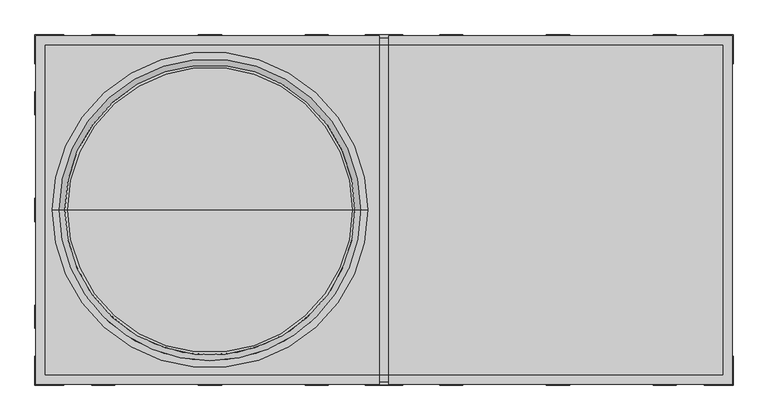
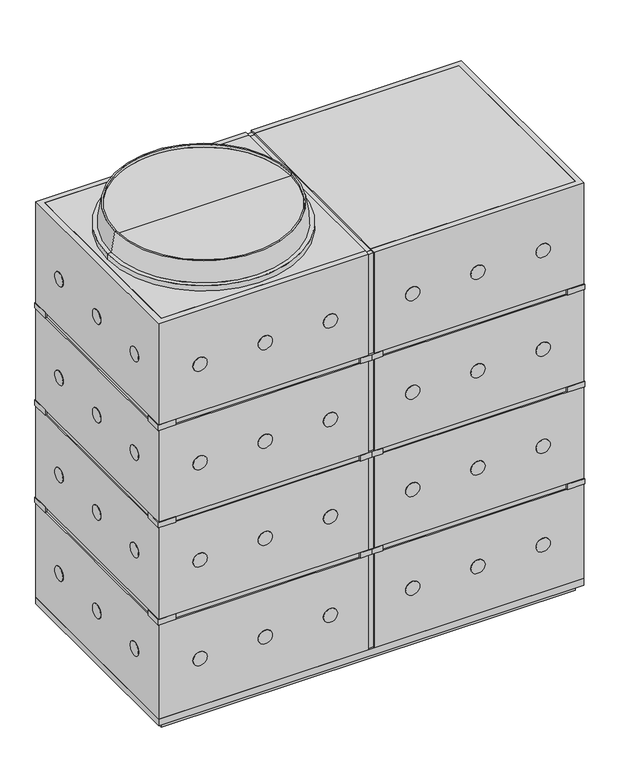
"""IFC4 building model written with IfcOpenShell, lengths in millimetres: cable carrier fitting geometry, КНС_КолодецПластиковыйСЛюком_1500-750-1500_301500_DKC : Колодец кабельный 1500×750×1500_301500."""

from ifc_helpers import new_model, si_unit, point, frame, frame_2d, origin, place, context, project, spatial, polyline, circle_curve, trimmed, segment, composite_curve, outline, extrude, faceted_brep, source, transform, mapped, element, save
from ifc_brep_helpers import plane_surface, cylinder_surface, revolved_surface, advanced_brep


def cable_carrier_fitting_decc5438(model_context):
    return source(origin(), model_context, "Body", "SolidModel", [
        extrude(outline(polyline([(1500.0, -730.0), (1500.0, 730.0), (1525.0, 730.0), (1525.0, 10.0), (1520.0, 10.0), (1520.0, -10.0), (1525.0, -10.0), (1525.0, -730.0), (1500.0, -730.0)])), frame((0.0, -355.0, 0.0), z_axis=(0.0, 1.0, 0.0), x_axis=(0.0, 0.0, 1.0)), (0.0, 0.0, 1.0), 710.0),
        advanced_brep(
        [(-375.0, 0.0, 1525.0), (-715.0, 0.0, 1525.0), (-35.0, 0.0, 1525.0), (-67.5121518, 0.0, 1609.0), (-682.4878482, 0.0, 1609.0), (-375.0, 0.0, 1609.0), (-67.5121518, 0.0, 1619.0), (-682.4878482, 0.0, 1619.0), (-62.5121518, 0.0, 1619.0), (-687.4878482, 0.0, 1619.0), (-50.0, 0.0, 1545.0), (-700.0, 0.0, 1545.0), (-35.0, 0.0, 1545.0), (-715.0, 0.0, 1545.0)],
        [
            (0, 1),
            (1, 2, circle_curve(frame((-375.0, 0.0, 1525.0), z_axis=(0.0, 0.0, -1.0), x_axis=(-1.0, 0.0, 0.0)), 340.0)),
            (2, 0),
            (2, 1, circle_curve(frame((-375.0, 0.0, 1525.0), z_axis=(0.0, 0.0, -1.0), x_axis=(-1.0, 0.0, 0.0)), 340.0)),
            (3, 4, circle_curve(frame((-375.0, 0.0, 1609.0), z_axis=(0.0, 0.0, 1.0), x_axis=(-1.0, 0.0, 0.0)), 307.4878482)),
            (4, 5),
            (5, 3),
            (4, 3, circle_curve(frame((-375.0, 0.0, 1609.0), z_axis=(0.0, 0.0, 1.0), x_axis=(-1.0, 0.0, 0.0)), 307.4878482)),
            (6, 7, circle_curve(frame((-375.0, 0.0, 1619.0), z_axis=(0.0, 0.0, 1.0), x_axis=(-1.0, 0.0, 0.0)), 307.4878482)),
            (7, 4),
            (3, 6),
            (7, 6, circle_curve(frame((-375.0, 0.0, 1619.0), z_axis=(0.0, 0.0, 1.0), x_axis=(-1.0, 0.0, 0.0)), 307.4878482)),
            (8, 9, circle_curve(frame((-375.0, 0.0, 1619.0), z_axis=(0.0, 0.0, 1.0), x_axis=(-1.0, 0.0, 0.0)), 312.4878482)),
            (9, 7),
            (6, 8),
            (9, 8, circle_curve(frame((-375.0, 0.0, 1619.0), z_axis=(0.0, 0.0, 1.0), x_axis=(-1.0, 0.0, 0.0)), 312.4878482)),
            (10, 11, circle_curve(frame((-375.0, 0.0, 1545.0), z_axis=(0.0, 0.0, 1.0), x_axis=(-1.0, 0.0, 0.0)), 325.0)),
            (11, 9),
            (8, 10),
            (11, 10, circle_curve(frame((-375.0, 0.0, 1545.0), z_axis=(0.0, 0.0, 1.0), x_axis=(-1.0, 0.0, 0.0)), 325.0)),
            (12, 13, circle_curve(frame((-375.0, 0.0, 1545.0), z_axis=(0.0, 0.0, 1.0), x_axis=(-1.0, 0.0, 0.0)), 340.0)),
            (13, 11),
            (10, 12),
            (13, 12, circle_curve(frame((-375.0, 0.0, 1545.0), z_axis=(0.0, 0.0, 1.0), x_axis=(-1.0, 0.0, 0.0)), 340.0)),
            (1, 13),
            (12, 2),
        ],
        [
            plane_surface(frame((-375.0, 0.0, 1525.0), z_axis=(0.0, 0.0, -1.0), x_axis=(-1.0, 0.0, 0.0))),
            plane_surface(frame((-375.0, 0.0, 1609.0), z_axis=(0.0, 0.0, 1.0), x_axis=(-1.0, 0.0, 0.0))),
            revolved_surface(polyline([(-682.4878481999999, 0.0, 1609.0), (-682.4878481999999, 0.0, 1619.0)]), (-375.0, 0.0, 2589.3150031), (0.0, 0.0, -1.0)),
            plane_surface(frame((-375.0, 0.0, 1619.0), z_axis=(0.0, 0.0, 1.0), x_axis=(-1.0, 0.0, 0.0))),
            revolved_surface(polyline([(-687.4878482, 0.0, 1619.0), (-700.0, 0.0, 1545.0)]), (-375.0, 0.0, 2589.3150031), (0.0, 0.0, -1.0)),
            plane_surface(frame((-375.0, 0.0, 1545.0), z_axis=(0.0, 0.0, 1.0), x_axis=(-1.0, 0.0, 0.0))),
            cylinder_surface(frame((-375.0, 0.0, 2589.3150031), z_axis=(0.0, 0.0, -1.0), x_axis=(-1.0, 0.0, 0.0)), 340.0),
        ],
        [
            (0, [[1, 2, 3]]),
            (0, [[-3, 4, -1]]),
            (1, [[5, 6, 7]]),
            (1, [[8, -7, -6]]),
            (2, [[9, 10, -5, 11]]),
            (2, [[12, -11, -8, -10]]),
            (3, [[13, 14, -9, 15]]),
            (3, [[16, -15, -12, -14]]),
            (4, [[17, 18, -13, 19]]),
            (4, [[20, -19, -16, -18]]),
            (5, [[21, 22, -17, 23]]),
            (5, [[24, -23, -20, -22]]),
            (6, [[-2, 25, -21, 26]]),
            (6, [[-4, -26, -24, -25]]),
        ],
    ),
        faceted_brep([(-750.0, 375.0, 1525.0), (-750.0, -375.0, 1525.0), (-10.0, -375.0, 1525.0), (-10.0, -355.0, 1525.0), (-730.0, -355.0, 1525.0), (-730.0, 355.0, 1525.0), (-10.0, 355.0, 1525.0), (-10.0, 375.0, 1525.0), (750.0, -375.0, 1525.0), (750.0, 375.0, 1525.0), (10.0, 375.0, 1525.0), (10.0, 355.0, 1525.0), (730.0, 355.0, 1525.0), (730.0, -355.0, 1525.0), (10.0, -355.0, 1525.0), (10.0, -375.0, 1525.0), (750.0, 375.0, 50.0), (750.0, -375.0, 50.0), (10.0, -375.0, 50.0), (10.0, -370.0, 50.0), (-10.0, -370.0, 50.0), (-10.0, -375.0, 50.0), (-750.0, -375.0, 50.0), (-750.0, 375.0, 50.0), (-10.0, 375.0, 50.0), (-10.0, 370.0, 50.0), (10.0, 370.0, 50.0), (10.0, 375.0, 50.0), (730.0, 355.0, 50.0), (-730.0, 355.0, 50.0), (-730.0, -355.0, 50.0), (730.0, -355.0, 50.0), (-10.0, 375.0, 1147.5), (-750.0, 375.0, 1147.5), (750.0, 375.0, 1147.5), (10.0, 375.0, 1147.5), (750.0, 375.0, 402.5), (10.0, 375.0, 402.5), (-750.0, 375.0, 402.5), (-10.0, 375.0, 402.5), (750.0, 375.0, 422.5), (10.0, 375.0, 422.5), (10.0, 375.0, 765.0), (750.0, 375.0, 765.0), (-10.0, 375.0, 422.5), (-750.0, 375.0, 422.5), (-750.0, 375.0, 765.0), (-10.0, 375.0, 765.0), (750.0, 375.0, 785.0), (10.0, 375.0, 785.0), (10.0, 375.0, 1127.5), (750.0, 375.0, 1127.5), (-10.0, 375.0, 785.0), (-750.0, 375.0, 785.0), (-750.0, 375.0, 1127.5), (-10.0, 375.0, 1127.5), (-750.0, -375.0, 1147.5), (-750.0, -375.0, 402.5), (-750.0, -375.0, 422.5), (-750.0, -375.0, 765.0), (-750.0, -375.0, 785.0), (-750.0, -375.0, 1127.5), (-10.0, -375.0, 1147.5), (10.0, -375.0, 1147.5), (750.0, -375.0, 1147.5), (-10.0, -375.0, 402.5), (750.0, -375.0, 402.5), (10.0, -375.0, 402.5), (10.0, -375.0, 422.5), (750.0, -375.0, 422.5), (750.0, -375.0, 765.0), (10.0, -375.0, 765.0), (-10.0, -375.0, 422.5), (-10.0, -375.0, 765.0), (-10.0, -375.0, 785.0), (-10.0, -375.0, 1127.5), (10.0, -375.0, 785.0), (750.0, -375.0, 785.0), (750.0, -375.0, 1127.5), (10.0, -375.0, 1127.5), (-745.0, 370.0, 402.5), (-745.0, -370.0, 402.5), (-745.0, -370.0, 422.5), (-745.0, 370.0, 422.5), (-10.0, -370.0, 402.5), (10.0, -370.0, 402.5), (745.0, -370.0, 402.5), (745.0, -370.0, 422.5), (10.0, -370.0, 422.5), (10.0, -370.0, 765.0), (745.0, -370.0, 765.0), (745.0, -370.0, 785.0), (10.0, -370.0, 785.0), (10.0, -370.0, 1127.5), (745.0, -370.0, 1127.5), (745.0, -370.0, 1147.5), (10.0, -370.0, 1147.5), (10.0, -370.0, 1520.0), (-10.0, -370.0, 1520.0), (-10.0, -370.0, 1147.5), (-745.0, -370.0, 1147.5), (-745.0, -370.0, 1127.5), (-10.0, -370.0, 1127.5), (-10.0, -370.0, 785.0), (-745.0, -370.0, 785.0), (-745.0, -370.0, 765.0), (-10.0, -370.0, 765.0), (-10.0, -370.0, 422.5), (745.0, 370.0, 402.5), (745.0, 370.0, 422.5), (-10.0, 370.0, 422.5), (-10.0, 370.0, 765.0), (-745.0, 370.0, 765.0), (-745.0, 370.0, 785.0), (-10.0, 370.0, 785.0), (-10.0, 370.0, 1127.5), (-745.0, 370.0, 1127.5), (-745.0, 370.0, 1147.5), (-10.0, 370.0, 1147.5), (-10.0, 370.0, 1520.0), (10.0, 370.0, 1520.0), (10.0, 370.0, 1147.5), (745.0, 370.0, 1147.5), (745.0, 370.0, 1127.5), (10.0, 370.0, 1127.5), (10.0, 370.0, 785.0), (745.0, 370.0, 785.0), (745.0, 370.0, 765.0), (10.0, 370.0, 765.0), (10.0, 370.0, 422.5), (10.0, 370.0, 402.5), (-10.0, 370.0, 402.5), (10.0, 355.0, 1520.0), (-10.0, 355.0, 1520.0), (-10.0, -355.0, 1520.0), (10.0, -355.0, 1520.0)], [[[0, 1, 2, 3, 4, 5, 6, 7]], [[8, 9, 10, 11, 12, 13, 14, 15]], [[16, 17, 18, 19, 20, 21, 22, 23, 24, 25, 26, 27], [28, 29, 30, 31]], [[0, 7, 32, 33]], [[10, 9, 34, 35]], [[36, 16, 27, 37]], [[23, 38, 39, 24]], [[40, 41, 42, 43]], [[44, 45, 46, 47]], [[48, 49, 50, 51]], [[52, 53, 54, 55]], [[1, 0, 33, 56]], [[23, 22, 57, 38]], [[45, 58, 59, 46]], [[53, 60, 61, 54]], [[2, 1, 56, 62]], [[8, 15, 63, 64]], [[57, 22, 21, 65]], [[17, 66, 67, 18]], [[68, 69, 70, 71]], [[58, 72, 73, 59]], [[60, 74, 75, 61]], [[76, 77, 78, 79]], [[9, 8, 64, 34]], [[17, 16, 36, 66]], [[69, 40, 43, 70]], [[77, 48, 51, 78]], [[80, 81, 82, 83]], [[82, 81, 84, 20, 19, 85, 86, 87, 88, 89, 90, 91, 92, 93, 94, 95, 96, 97, 98, 99, 100, 101, 102, 103, 104, 105, 106, 107]], [[87, 86, 108, 109]], [[80, 83, 110, 111, 112, 113, 114, 115, 116, 117, 118, 119, 120, 121, 122, 123, 124, 125, 126, 127, 128, 129, 109, 108, 130, 26, 25, 131]], [[81, 80, 131, 39, 38, 57, 65, 84]], [[108, 86, 85, 67, 66, 36, 37, 130]], [[83, 82, 107, 72, 58, 45, 44, 110]], [[87, 109, 129, 41, 40, 69, 68, 88]], [[5, 29, 28, 12, 11, 132, 133, 6]], [[29, 5, 4, 30]], [[30, 4, 3, 134, 135, 14, 13, 31]], [[12, 28, 31, 13]], [[85, 19, 18, 67]], [[26, 130, 37, 27]], [[41, 129, 128, 42]], [[88, 68, 71, 89]], [[120, 132, 11, 10, 35, 121]], [[135, 97, 96, 63, 15, 14]], [[49, 125, 124, 50]], [[92, 76, 79, 93]], [[20, 84, 65, 21]], [[131, 25, 24, 39]], [[72, 107, 106, 73]], [[110, 44, 47, 111]], [[133, 119, 118, 32, 7, 6]], [[98, 134, 3, 2, 62, 99]], [[114, 52, 55, 115]], [[74, 103, 102, 75]], [[98, 97, 135, 134]], [[120, 119, 133, 132]], [[112, 105, 104, 113]], [[91, 90, 127, 126]], [[105, 112, 111, 47, 46, 59, 73, 106]], [[127, 90, 89, 71, 70, 43, 42, 128]], [[113, 104, 103, 74, 60, 53, 52, 114]], [[91, 126, 125, 49, 48, 77, 76, 92]], [[116, 101, 100, 117]], [[95, 94, 123, 122]], [[101, 116, 115, 55, 54, 61, 75, 102]], [[123, 94, 93, 79, 78, 51, 50, 124]], [[117, 100, 99, 62, 56, 33, 32, 118]], [[95, 122, 121, 35, 34, 64, 63, 96]]]),
        faceted_brep([(750.0, 375.0, 50.0), (-750.0, 375.0, 50.0), (-750.0, -375.0, 50.0), (750.0, -375.0, 50.0), (-730.0, 355.0, 0.0), (730.0, 355.0, 0.0), (730.0, -355.0, 0.0), (-730.0, -355.0, 0.0), (750.0, 375.0, 25.0), (-750.0, 375.0, 25.0), (-750.0, -375.0, 25.0), (750.0, -375.0, 25.0), (-730.0, 355.0, 25.0), (730.0, 355.0, 25.0), (730.0, -355.0, 25.0), (-730.0, -355.0, 25.0)], [[[0, 1, 2, 3]], [[4, 5, 6, 7]], [[1, 0, 8, 9]], [[2, 1, 9, 10]], [[3, 2, 10, 11]], [[0, 3, 11, 8]], [[12, 13, 5, 4]], [[5, 13, 14, 6]], [[6, 14, 15, 7]], [[9, 8, 11, 10], [13, 12, 15, 14]], [[12, 4, 7, 15]]]),
        extrude(outline(polyline([(752.0, -315.0), (752.0, -377.0), (690.0, -377.0), (690.0, -356.0), (731.0, -356.0), (731.0, -315.0), (752.0, -315.0)])), frame((0.0, 0.0, 765.0), z_axis=(0.0, 0.0, 1.0), x_axis=(1.0, 0.0, 0.0)), (0.0, 0.0, 1.0), 20.0),
        extrude(outline(polyline([(-752.0, -315.0), (-731.0, -315.0), (-731.0, -356.0), (-690.0, -356.0), (-690.0, -377.0), (-752.0, -377.0), (-752.0, -315.0)])), frame((0.0, 0.0, 765.0), z_axis=(0.0, 0.0, 1.0), x_axis=(1.0, 0.0, 0.0)), (0.0, 0.0, 1.0), 20.0),
        extrude(outline(polyline([(752.0, 315.0), (731.0, 315.0), (731.0, 356.0), (690.0, 356.0), (690.0, 377.0), (752.0, 377.0), (752.0, 315.0)])), frame((0.0, 0.0, 765.0), z_axis=(0.0, 0.0, 1.0), x_axis=(1.0, 0.0, 0.0)), (0.0, 0.0, 1.0), 20.0),
        extrude(outline(polyline([(-752.0, 315.0), (-752.0, 377.0), (-690.0, 377.0), (-690.0, 356.0), (-731.0, 356.0), (-731.0, 315.0), (-752.0, 315.0)])), frame((0.0, 0.0, 765.0), z_axis=(0.0, 0.0, 1.0), x_axis=(1.0, 0.0, 0.0)), (0.0, 0.0, 1.0), 20.0),
        extrude(outline(polyline([(40.0, -355.0), (40.0, -377.0), (0.0, -377.0), (-40.0, -377.0), (-40.0, -355.0), (0.0, -355.0), (40.0, -355.0)])), frame((0.0, 0.0, 765.0), z_axis=(0.0, 0.0, 1.0), x_axis=(1.0, 0.0, 0.0)), (0.0, 0.0, 1.0), 20.0),
        extrude(outline(polyline([(40.0, 355.0), (0.0, 355.0), (-40.0, 355.0), (-40.0, 377.0), (0.0, 377.0), (40.0, 377.0), (40.0, 355.0)])), frame((0.0, 0.0, 765.0), z_axis=(0.0, 0.0, 1.0), x_axis=(1.0, 0.0, 0.0)), (0.0, 0.0, 1.0), 20.0),
        extrude(outline(polyline([(752.0, -315.0), (752.0, -377.0), (690.0, -377.0), (690.0, -356.0), (731.0, -356.0), (731.0, -315.0), (752.0, -315.0)])), frame((0.0, 0.0, 1127.5), z_axis=(0.0, 0.0, 1.0), x_axis=(1.0, 0.0, 0.0)), (0.0, 0.0, 1.0), 20.0),
        extrude(outline(polyline([(-752.0, -315.0), (-731.0, -315.0), (-731.0, -356.0), (-690.0, -356.0), (-690.0, -377.0), (-752.0, -377.0), (-752.0, -315.0)])), frame((0.0, 0.0, 1127.5), z_axis=(0.0, 0.0, 1.0), x_axis=(1.0, 0.0, 0.0)), (0.0, 0.0, 1.0), 20.0),
        extrude(outline(polyline([(752.0, 315.0), (731.0, 315.0), (731.0, 356.0), (690.0, 356.0), (690.0, 377.0), (752.0, 377.0), (752.0, 315.0)])), frame((0.0, 0.0, 1127.5), z_axis=(0.0, 0.0, 1.0), x_axis=(1.0, 0.0, 0.0)), (0.0, 0.0, 1.0), 20.0),
        extrude(outline(polyline([(-752.0, 315.0), (-752.0, 377.0), (-690.0, 377.0), (-690.0, 356.0), (-731.0, 356.0), (-731.0, 315.0), (-752.0, 315.0)])), frame((0.0, 0.0, 1127.5), z_axis=(0.0, 0.0, 1.0), x_axis=(1.0, 0.0, 0.0)), (0.0, 0.0, 1.0), 20.0),
        extrude(outline(polyline([(40.0, -355.0), (40.0, -377.0), (0.0, -377.0), (-40.0, -377.0), (-40.0, -355.0), (0.0, -355.0), (40.0, -355.0)])), frame((0.0, 0.0, 1127.5), z_axis=(0.0, 0.0, 1.0), x_axis=(1.0, 0.0, 0.0)), (0.0, 0.0, 1.0), 20.0),
        extrude(outline(polyline([(40.0, 355.0), (0.0, 355.0), (-40.0, 355.0), (-40.0, 377.0), (0.0, 377.0), (40.0, 377.0), (40.0, 355.0)])), frame((0.0, 0.0, 1127.5), z_axis=(0.0, 0.0, 1.0), x_axis=(1.0, 0.0, 0.0)), (0.0, 0.0, 1.0), 20.0),
        extrude(outline(composite_curve([segment(trimmed(circle_curve(frame_2d((956.25, -605.0)), 25.0), [point((956.25, -580.0))], [point((956.25, -630.0))], False, "CARTESIAN"), True, "CONTINUOUS"), segment(trimmed(circle_curve(frame_2d((956.25, -605.0)), 25.0), [point((956.25, -630.0))], [point((956.25, -580.0))], False, "CARTESIAN"), True, "CONTINUOUS")], self_intersect=False)), frame((0.0, 375.0, 0.0), z_axis=(0.0, 1.0, 0.0), x_axis=(0.0, 0.0, 1.0)), (0.0, 0.0, 1.0), 2.0),
        extrude(outline(composite_curve([segment(trimmed(circle_curve(frame_2d((956.25, -375.0)), 25.0), [point((956.25, -350.0))], [point((956.25, -400.0))], False, "CARTESIAN"), True, "CONTINUOUS"), segment(trimmed(circle_curve(frame_2d((956.25, -375.0)), 25.0), [point((956.25, -400.0))], [point((956.25, -350.0))], False, "CARTESIAN"), True, "CONTINUOUS")], self_intersect=False)), frame((0.0, 375.0, 0.0), z_axis=(0.0, 1.0, 0.0), x_axis=(0.0, 0.0, 1.0)), (0.0, 0.0, 1.0), 2.0),
        extrude(outline(composite_curve([segment(trimmed(circle_curve(frame_2d((956.25, -145.0)), 25.0), [point((956.25, -120.0))], [point((956.25, -170.0))], False, "CARTESIAN"), True, "CONTINUOUS"), segment(trimmed(circle_curve(frame_2d((956.25, -145.0)), 25.0), [point((956.25, -170.0))], [point((956.25, -120.0))], False, "CARTESIAN"), True, "CONTINUOUS")], self_intersect=False)), frame((0.0, 375.0, 0.0), z_axis=(0.0, 1.0, 0.0), x_axis=(0.0, 0.0, 1.0)), (0.0, 0.0, 1.0), 2.0),
        extrude(outline(composite_curve([segment(trimmed(circle_curve(frame_2d((956.25, 145.0)), 25.0), [point((956.25, 170.0))], [point((956.25, 120.0))], False, "CARTESIAN"), True, "CONTINUOUS"), segment(trimmed(circle_curve(frame_2d((956.25, 145.0)), 25.0), [point((956.25, 120.0))], [point((956.25, 170.0))], False, "CARTESIAN"), True, "CONTINUOUS")], self_intersect=False)), frame((0.0, 375.0, 0.0), z_axis=(0.0, 1.0, 0.0), x_axis=(0.0, 0.0, 1.0)), (0.0, 0.0, 1.0), 2.0),
        extrude(outline(composite_curve([segment(trimmed(circle_curve(frame_2d((956.25, 375.0)), 25.0), [point((956.25, 400.0))], [point((956.25, 350.0))], False, "CARTESIAN"), True, "CONTINUOUS"), segment(trimmed(circle_curve(frame_2d((956.25, 375.0)), 25.0), [point((956.25, 350.0))], [point((956.25, 400.0))], False, "CARTESIAN"), True, "CONTINUOUS")], self_intersect=False)), frame((0.0, 375.0, 0.0), z_axis=(0.0, 1.0, 0.0), x_axis=(0.0, 0.0, 1.0)), (0.0, 0.0, 1.0), 2.0),
        extrude(outline(composite_curve([segment(trimmed(circle_curve(frame_2d((956.25, 605.0)), 25.0), [point((956.25, 630.0))], [point((956.25, 580.0))], False, "CARTESIAN"), True, "CONTINUOUS"), segment(trimmed(circle_curve(frame_2d((956.25, 605.0)), 25.0), [point((956.25, 580.0))], [point((956.25, 630.0))], False, "CARTESIAN"), True, "CONTINUOUS")], self_intersect=False)), frame((0.0, 375.0, 0.0), z_axis=(0.0, 1.0, 0.0), x_axis=(0.0, 0.0, 1.0)), (0.0, 0.0, 1.0), 2.0),
        extrude(outline(composite_curve([segment(trimmed(circle_curve(frame_2d((593.75, -605.0)), 25.0), [point((593.75, -580.0))], [point((593.75, -630.0))], False, "CARTESIAN"), True, "CONTINUOUS"), segment(trimmed(circle_curve(frame_2d((593.75, -605.0)), 25.0), [point((593.75, -630.0))], [point((593.75, -580.0))], False, "CARTESIAN"), True, "CONTINUOUS")], self_intersect=False)), frame((0.0, 375.0, 0.0), z_axis=(0.0, 1.0, 0.0), x_axis=(0.0, 0.0, 1.0)), (0.0, 0.0, 1.0), 2.0),
        extrude(outline(composite_curve([segment(trimmed(circle_curve(frame_2d((593.75, -375.0)), 25.0), [point((593.75, -350.0))], [point((593.75, -400.0))], False, "CARTESIAN"), True, "CONTINUOUS"), segment(trimmed(circle_curve(frame_2d((593.75, -375.0)), 25.0), [point((593.75, -400.0))], [point((593.75, -350.0))], False, "CARTESIAN"), True, "CONTINUOUS")], self_intersect=False)), frame((0.0, 375.0, 0.0), z_axis=(0.0, 1.0, 0.0), x_axis=(0.0, 0.0, 1.0)), (0.0, 0.0, 1.0), 2.0),
        extrude(outline(composite_curve([segment(trimmed(circle_curve(frame_2d((593.75, -145.0)), 25.0), [point((593.75, -120.0))], [point((593.75, -170.0))], False, "CARTESIAN"), True, "CONTINUOUS"), segment(trimmed(circle_curve(frame_2d((593.75, -145.0)), 25.0), [point((593.75, -170.0))], [point((593.75, -120.0))], False, "CARTESIAN"), True, "CONTINUOUS")], self_intersect=False)), frame((0.0, 375.0, 0.0), z_axis=(0.0, 1.0, 0.0), x_axis=(0.0, 0.0, 1.0)), (0.0, 0.0, 1.0), 2.0),
        extrude(outline(composite_curve([segment(trimmed(circle_curve(frame_2d((593.75, 145.0)), 25.0), [point((593.75, 170.0))], [point((593.75, 120.0))], False, "CARTESIAN"), True, "CONTINUOUS"), segment(trimmed(circle_curve(frame_2d((593.75, 145.0)), 25.0), [point((593.75, 120.0))], [point((593.75, 170.0))], False, "CARTESIAN"), True, "CONTINUOUS")], self_intersect=False)), frame((0.0, 375.0, 0.0), z_axis=(0.0, 1.0, 0.0), x_axis=(0.0, 0.0, 1.0)), (0.0, 0.0, 1.0), 2.0),
        extrude(outline(composite_curve([segment(trimmed(circle_curve(frame_2d((593.75, 375.0)), 25.0), [point((593.75, 400.0))], [point((593.75, 350.0))], False, "CARTESIAN"), True, "CONTINUOUS"), segment(trimmed(circle_curve(frame_2d((593.75, 375.0)), 25.0), [point((593.75, 350.0))], [point((593.75, 400.0))], False, "CARTESIAN"), True, "CONTINUOUS")], self_intersect=False)), frame((0.0, 375.0, 0.0), z_axis=(0.0, 1.0, 0.0), x_axis=(0.0, 0.0, 1.0)), (0.0, 0.0, 1.0), 2.0),
        extrude(outline(composite_curve([segment(trimmed(circle_curve(frame_2d((593.75, 605.0)), 25.0), [point((593.75, 630.0))], [point((593.75, 580.0))], False, "CARTESIAN"), True, "CONTINUOUS"), segment(trimmed(circle_curve(frame_2d((593.75, 605.0)), 25.0), [point((593.75, 580.0))], [point((593.75, 630.0))], False, "CARTESIAN"), True, "CONTINUOUS")], self_intersect=False)), frame((0.0, 375.0, 0.0), z_axis=(0.0, 1.0, 0.0), x_axis=(0.0, 0.0, 1.0)), (0.0, 0.0, 1.0), 2.0),
        extrude(outline(composite_curve([segment(trimmed(circle_curve(frame_2d((226.25, -605.0)), 25.0), [point((226.25, -580.0))], [point((226.25, -630.0))], False, "CARTESIAN"), True, "CONTINUOUS"), segment(trimmed(circle_curve(frame_2d((226.25, -605.0)), 25.0), [point((226.25, -630.0))], [point((226.25, -580.0))], False, "CARTESIAN"), True, "CONTINUOUS")], self_intersect=False)), frame((0.0, 375.0, 0.0), z_axis=(0.0, 1.0, 0.0), x_axis=(0.0, 0.0, 1.0)), (0.0, 0.0, 1.0), 2.0),
        extrude(outline(composite_curve([segment(trimmed(circle_curve(frame_2d((226.25, -375.0)), 25.0), [point((226.25, -350.0))], [point((226.25, -400.0))], False, "CARTESIAN"), True, "CONTINUOUS"), segment(trimmed(circle_curve(frame_2d((226.25, -375.0)), 25.0), [point((226.25, -400.0))], [point((226.25, -350.0))], False, "CARTESIAN"), True, "CONTINUOUS")], self_intersect=False)), frame((0.0, 375.0, 0.0), z_axis=(0.0, 1.0, 0.0), x_axis=(0.0, 0.0, 1.0)), (0.0, 0.0, 1.0), 2.0),
        extrude(outline(composite_curve([segment(trimmed(circle_curve(frame_2d((226.25, -145.0)), 25.0), [point((226.25, -120.0))], [point((226.25, -170.0))], False, "CARTESIAN"), True, "CONTINUOUS"), segment(trimmed(circle_curve(frame_2d((226.25, -145.0)), 25.0), [point((226.25, -170.0))], [point((226.25, -120.0))], False, "CARTESIAN"), True, "CONTINUOUS")], self_intersect=False)), frame((0.0, 375.0, 0.0), z_axis=(0.0, 1.0, 0.0), x_axis=(0.0, 0.0, 1.0)), (0.0, 0.0, 1.0), 2.0),
        extrude(outline(composite_curve([segment(trimmed(circle_curve(frame_2d((226.25, 145.0)), 25.0), [point((226.25, 170.0))], [point((226.25, 120.0))], False, "CARTESIAN"), True, "CONTINUOUS"), segment(trimmed(circle_curve(frame_2d((226.25, 145.0)), 25.0), [point((226.25, 120.0))], [point((226.25, 170.0))], False, "CARTESIAN"), True, "CONTINUOUS")], self_intersect=False)), frame((0.0, 375.0, 0.0), z_axis=(0.0, 1.0, 0.0), x_axis=(0.0, 0.0, 1.0)), (0.0, 0.0, 1.0), 2.0),
        extrude(outline(composite_curve([segment(trimmed(circle_curve(frame_2d((226.25, 375.0)), 25.0), [point((226.25, 400.0))], [point((226.25, 350.0))], False, "CARTESIAN"), True, "CONTINUOUS"), segment(trimmed(circle_curve(frame_2d((226.25, 375.0)), 25.0), [point((226.25, 350.0))], [point((226.25, 400.0))], False, "CARTESIAN"), True, "CONTINUOUS")], self_intersect=False)), frame((0.0, 375.0, 0.0), z_axis=(0.0, 1.0, 0.0), x_axis=(0.0, 0.0, 1.0)), (0.0, 0.0, 1.0), 2.0),
        extrude(outline(composite_curve([segment(trimmed(circle_curve(frame_2d((226.25, 605.0)), 25.0), [point((226.25, 630.0))], [point((226.25, 580.0))], False, "CARTESIAN"), True, "CONTINUOUS"), segment(trimmed(circle_curve(frame_2d((226.25, 605.0)), 25.0), [point((226.25, 580.0))], [point((226.25, 630.0))], False, "CARTESIAN"), True, "CONTINUOUS")], self_intersect=False)), frame((0.0, 375.0, 0.0), z_axis=(0.0, 1.0, 0.0), x_axis=(0.0, 0.0, 1.0)), (0.0, 0.0, 1.0), 2.0),
        extrude(outline(composite_curve([segment(trimmed(circle_curve(frame_2d((1323.75, -605.0)), 25.0), [point((1323.75, -580.0))], [point((1323.75, -630.0))], False, "CARTESIAN"), True, "CONTINUOUS"), segment(trimmed(circle_curve(frame_2d((1323.75, -605.0)), 25.0), [point((1323.75, -630.0))], [point((1323.75, -580.0))], False, "CARTESIAN"), True, "CONTINUOUS")], self_intersect=False)), frame((0.0, 375.0, 0.0), z_axis=(0.0, 1.0, 0.0), x_axis=(0.0, 0.0, 1.0)), (0.0, 0.0, 1.0), 2.0),
        extrude(outline(composite_curve([segment(trimmed(circle_curve(frame_2d((1323.75, -375.0)), 25.0), [point((1323.75, -350.0))], [point((1323.75, -400.0))], False, "CARTESIAN"), True, "CONTINUOUS"), segment(trimmed(circle_curve(frame_2d((1323.75, -375.0)), 25.0), [point((1323.75, -400.0))], [point((1323.75, -350.0))], False, "CARTESIAN"), True, "CONTINUOUS")], self_intersect=False)), frame((0.0, 375.0, 0.0), z_axis=(0.0, 1.0, 0.0), x_axis=(0.0, 0.0, 1.0)), (0.0, 0.0, 1.0), 2.0),
        extrude(outline(composite_curve([segment(trimmed(circle_curve(frame_2d((1323.75, -145.0)), 25.0), [point((1323.75, -120.0))], [point((1323.75, -170.0))], False, "CARTESIAN"), True, "CONTINUOUS"), segment(trimmed(circle_curve(frame_2d((1323.75, -145.0)), 25.0), [point((1323.75, -170.0))], [point((1323.75, -120.0))], False, "CARTESIAN"), True, "CONTINUOUS")], self_intersect=False)), frame((0.0, 375.0, 0.0), z_axis=(0.0, 1.0, 0.0), x_axis=(0.0, 0.0, 1.0)), (0.0, 0.0, 1.0), 2.0),
        extrude(outline(composite_curve([segment(trimmed(circle_curve(frame_2d((1323.75, 145.0)), 25.0), [point((1323.75, 170.0))], [point((1323.75, 120.0))], False, "CARTESIAN"), True, "CONTINUOUS"), segment(trimmed(circle_curve(frame_2d((1323.75, 145.0)), 25.0), [point((1323.75, 120.0))], [point((1323.75, 170.0))], False, "CARTESIAN"), True, "CONTINUOUS")], self_intersect=False)), frame((0.0, 375.0, 0.0), z_axis=(0.0, 1.0, 0.0), x_axis=(0.0, 0.0, 1.0)), (0.0, 0.0, 1.0), 2.0),
        extrude(outline(composite_curve([segment(trimmed(circle_curve(frame_2d((1323.75, 375.0)), 25.0), [point((1323.75, 400.0))], [point((1323.75, 350.0))], False, "CARTESIAN"), True, "CONTINUOUS"), segment(trimmed(circle_curve(frame_2d((1323.75, 375.0)), 25.0), [point((1323.75, 350.0))], [point((1323.75, 400.0))], False, "CARTESIAN"), True, "CONTINUOUS")], self_intersect=False)), frame((0.0, 375.0, 0.0), z_axis=(0.0, 1.0, 0.0), x_axis=(0.0, 0.0, 1.0)), (0.0, 0.0, 1.0), 2.0),
        extrude(outline(composite_curve([segment(trimmed(circle_curve(frame_2d((1323.75, 605.0)), 25.0), [point((1323.75, 630.0))], [point((1323.75, 580.0))], False, "CARTESIAN"), True, "CONTINUOUS"), segment(trimmed(circle_curve(frame_2d((1323.75, 605.0)), 25.0), [point((1323.75, 580.0))], [point((1323.75, 630.0))], False, "CARTESIAN"), True, "CONTINUOUS")], self_intersect=False)), frame((0.0, 375.0, 0.0), z_axis=(0.0, 1.0, 0.0), x_axis=(0.0, 0.0, 1.0)), (0.0, 0.0, 1.0), 2.0),
        extrude(outline(composite_curve([segment(trimmed(circle_curve(frame_2d((956.25, -605.0)), 25.0), [point((956.25, -630.0))], [point((956.25, -580.0))], False, "CARTESIAN"), True, "CONTINUOUS"), segment(trimmed(circle_curve(frame_2d((956.25, -605.0)), 25.0), [point((956.25, -580.0))], [point((956.25, -630.0))], False, "CARTESIAN"), True, "CONTINUOUS")], self_intersect=False)), frame((0.0, -377.0, 0.0), z_axis=(0.0, 1.0, 0.0), x_axis=(0.0, 0.0, 1.0)), (0.0, 0.0, 1.0), 2.0),
        extrude(outline(composite_curve([segment(trimmed(circle_curve(frame_2d((956.25, -375.0)), 25.0), [point((956.25, -400.0))], [point((956.25, -350.0))], False, "CARTESIAN"), True, "CONTINUOUS"), segment(trimmed(circle_curve(frame_2d((956.25, -375.0)), 25.0), [point((956.25, -350.0))], [point((956.25, -400.0))], False, "CARTESIAN"), True, "CONTINUOUS")], self_intersect=False)), frame((0.0, -377.0, 0.0), z_axis=(0.0, 1.0, 0.0), x_axis=(0.0, 0.0, 1.0)), (0.0, 0.0, 1.0), 2.0),
        extrude(outline(composite_curve([segment(trimmed(circle_curve(frame_2d((956.25, -145.0)), 25.0), [point((956.25, -170.0))], [point((956.25, -120.0))], False, "CARTESIAN"), True, "CONTINUOUS"), segment(trimmed(circle_curve(frame_2d((956.25, -145.0)), 25.0), [point((956.25, -120.0))], [point((956.25, -170.0))], False, "CARTESIAN"), True, "CONTINUOUS")], self_intersect=False)), frame((0.0, -377.0, 0.0), z_axis=(0.0, 1.0, 0.0), x_axis=(0.0, 0.0, 1.0)), (0.0, 0.0, 1.0), 2.0),
        extrude(outline(composite_curve([segment(trimmed(circle_curve(frame_2d((956.25, 145.0)), 25.0), [point((956.25, 120.0))], [point((956.25, 170.0))], False, "CARTESIAN"), True, "CONTINUOUS"), segment(trimmed(circle_curve(frame_2d((956.25, 145.0)), 25.0), [point((956.25, 170.0))], [point((956.25, 120.0))], False, "CARTESIAN"), True, "CONTINUOUS")], self_intersect=False)), frame((0.0, -377.0, 0.0), z_axis=(0.0, 1.0, 0.0), x_axis=(0.0, 0.0, 1.0)), (0.0, 0.0, 1.0), 2.0),
        extrude(outline(composite_curve([segment(trimmed(circle_curve(frame_2d((956.25, 375.0)), 25.0), [point((956.25, 350.0))], [point((956.25, 400.0))], False, "CARTESIAN"), True, "CONTINUOUS"), segment(trimmed(circle_curve(frame_2d((956.25, 375.0)), 25.0), [point((956.25, 400.0))], [point((956.25, 350.0))], False, "CARTESIAN"), True, "CONTINUOUS")], self_intersect=False)), frame((0.0, -377.0, 0.0), z_axis=(0.0, 1.0, 0.0), x_axis=(0.0, 0.0, 1.0)), (0.0, 0.0, 1.0), 2.0),
        extrude(outline(composite_curve([segment(trimmed(circle_curve(frame_2d((956.25, 605.0)), 25.0), [point((956.25, 580.0))], [point((956.25, 630.0))], False, "CARTESIAN"), True, "CONTINUOUS"), segment(trimmed(circle_curve(frame_2d((956.25, 605.0)), 25.0), [point((956.25, 630.0))], [point((956.25, 580.0))], False, "CARTESIAN"), True, "CONTINUOUS")], self_intersect=False)), frame((0.0, -377.0, 0.0), z_axis=(0.0, 1.0, 0.0), x_axis=(0.0, 0.0, 1.0)), (0.0, 0.0, 1.0), 2.0),
        extrude(outline(composite_curve([segment(trimmed(circle_curve(frame_2d((593.75, -605.0)), 25.0), [point((593.75, -630.0))], [point((593.75, -580.0))], False, "CARTESIAN"), True, "CONTINUOUS"), segment(trimmed(circle_curve(frame_2d((593.75, -605.0)), 25.0), [point((593.75, -580.0))], [point((593.75, -630.0))], False, "CARTESIAN"), True, "CONTINUOUS")], self_intersect=False)), frame((0.0, -377.0, 0.0), z_axis=(0.0, 1.0, 0.0), x_axis=(0.0, 0.0, 1.0)), (0.0, 0.0, 1.0), 2.0),
        extrude(outline(composite_curve([segment(trimmed(circle_curve(frame_2d((593.75, -375.0)), 25.0), [point((593.75, -400.0))], [point((593.75, -350.0))], False, "CARTESIAN"), True, "CONTINUOUS"), segment(trimmed(circle_curve(frame_2d((593.75, -375.0)), 25.0), [point((593.75, -350.0))], [point((593.75, -400.0))], False, "CARTESIAN"), True, "CONTINUOUS")], self_intersect=False)), frame((0.0, -377.0, 0.0), z_axis=(0.0, 1.0, 0.0), x_axis=(0.0, 0.0, 1.0)), (0.0, 0.0, 1.0), 2.0),
        extrude(outline(composite_curve([segment(trimmed(circle_curve(frame_2d((593.75, -145.0)), 25.0), [point((593.75, -170.0))], [point((593.75, -120.0))], False, "CARTESIAN"), True, "CONTINUOUS"), segment(trimmed(circle_curve(frame_2d((593.75, -145.0)), 25.0), [point((593.75, -120.0))], [point((593.75, -170.0))], False, "CARTESIAN"), True, "CONTINUOUS")], self_intersect=False)), frame((0.0, -377.0, 0.0), z_axis=(0.0, 1.0, 0.0), x_axis=(0.0, 0.0, 1.0)), (0.0, 0.0, 1.0), 2.0),
        extrude(outline(composite_curve([segment(trimmed(circle_curve(frame_2d((593.75, 145.0)), 25.0), [point((593.75, 120.0))], [point((593.75, 170.0))], False, "CARTESIAN"), True, "CONTINUOUS"), segment(trimmed(circle_curve(frame_2d((593.75, 145.0)), 25.0), [point((593.75, 170.0))], [point((593.75, 120.0))], False, "CARTESIAN"), True, "CONTINUOUS")], self_intersect=False)), frame((0.0, -377.0, 0.0), z_axis=(0.0, 1.0, 0.0), x_axis=(0.0, 0.0, 1.0)), (0.0, 0.0, 1.0), 2.0),
        extrude(outline(composite_curve([segment(trimmed(circle_curve(frame_2d((593.75, 375.0)), 25.0), [point((593.75, 350.0))], [point((593.75, 400.0))], False, "CARTESIAN"), True, "CONTINUOUS"), segment(trimmed(circle_curve(frame_2d((593.75, 375.0)), 25.0), [point((593.75, 400.0))], [point((593.75, 350.0))], False, "CARTESIAN"), True, "CONTINUOUS")], self_intersect=False)), frame((0.0, -377.0, 0.0), z_axis=(0.0, 1.0, 0.0), x_axis=(0.0, 0.0, 1.0)), (0.0, 0.0, 1.0), 2.0),
        extrude(outline(composite_curve([segment(trimmed(circle_curve(frame_2d((593.75, 605.0)), 25.0), [point((593.75, 580.0))], [point((593.75, 630.0))], False, "CARTESIAN"), True, "CONTINUOUS"), segment(trimmed(circle_curve(frame_2d((593.75, 605.0)), 25.0), [point((593.75, 630.0))], [point((593.75, 580.0))], False, "CARTESIAN"), True, "CONTINUOUS")], self_intersect=False)), frame((0.0, -377.0, 0.0), z_axis=(0.0, 1.0, 0.0), x_axis=(0.0, 0.0, 1.0)), (0.0, 0.0, 1.0), 2.0),
        extrude(outline(composite_curve([segment(trimmed(circle_curve(frame_2d((226.25, -605.0)), 25.0), [point((226.25, -630.0))], [point((226.25, -580.0))], False, "CARTESIAN"), True, "CONTINUOUS"), segment(trimmed(circle_curve(frame_2d((226.25, -605.0)), 25.0), [point((226.25, -580.0))], [point((226.25, -630.0))], False, "CARTESIAN"), True, "CONTINUOUS")], self_intersect=False)), frame((0.0, -377.0, 0.0), z_axis=(0.0, 1.0, 0.0), x_axis=(0.0, 0.0, 1.0)), (0.0, 0.0, 1.0), 2.0),
        extrude(outline(composite_curve([segment(trimmed(circle_curve(frame_2d((226.25, -375.0)), 25.0), [point((226.25, -400.0))], [point((226.25, -350.0))], False, "CARTESIAN"), True, "CONTINUOUS"), segment(trimmed(circle_curve(frame_2d((226.25, -375.0)), 25.0), [point((226.25, -350.0))], [point((226.25, -400.0))], False, "CARTESIAN"), True, "CONTINUOUS")], self_intersect=False)), frame((0.0, -377.0, 0.0), z_axis=(0.0, 1.0, 0.0), x_axis=(0.0, 0.0, 1.0)), (0.0, 0.0, 1.0), 2.0),
        extrude(outline(composite_curve([segment(trimmed(circle_curve(frame_2d((226.25, -145.0)), 25.0), [point((226.25, -170.0))], [point((226.25, -120.0))], False, "CARTESIAN"), True, "CONTINUOUS"), segment(trimmed(circle_curve(frame_2d((226.25, -145.0)), 25.0), [point((226.25, -120.0))], [point((226.25, -170.0))], False, "CARTESIAN"), True, "CONTINUOUS")], self_intersect=False)), frame((0.0, -377.0, 0.0), z_axis=(0.0, 1.0, 0.0), x_axis=(0.0, 0.0, 1.0)), (0.0, 0.0, 1.0), 2.0),
        extrude(outline(composite_curve([segment(trimmed(circle_curve(frame_2d((226.25, 145.0)), 25.0), [point((226.25, 120.0))], [point((226.25, 170.0))], False, "CARTESIAN"), True, "CONTINUOUS"), segment(trimmed(circle_curve(frame_2d((226.25, 145.0)), 25.0), [point((226.25, 170.0))], [point((226.25, 120.0))], False, "CARTESIAN"), True, "CONTINUOUS")], self_intersect=False)), frame((0.0, -377.0, 0.0), z_axis=(0.0, 1.0, 0.0), x_axis=(0.0, 0.0, 1.0)), (0.0, 0.0, 1.0), 2.0),
        extrude(outline(composite_curve([segment(trimmed(circle_curve(frame_2d((226.25, 375.0)), 25.0), [point((226.25, 350.0))], [point((226.25, 400.0))], False, "CARTESIAN"), True, "CONTINUOUS"), segment(trimmed(circle_curve(frame_2d((226.25, 375.0)), 25.0), [point((226.25, 400.0))], [point((226.25, 350.0))], False, "CARTESIAN"), True, "CONTINUOUS")], self_intersect=False)), frame((0.0, -377.0, 0.0), z_axis=(0.0, 1.0, 0.0), x_axis=(0.0, 0.0, 1.0)), (0.0, 0.0, 1.0), 2.0),
        extrude(outline(composite_curve([segment(trimmed(circle_curve(frame_2d((226.25, 605.0)), 25.0), [point((226.25, 580.0))], [point((226.25, 630.0))], False, "CARTESIAN"), True, "CONTINUOUS"), segment(trimmed(circle_curve(frame_2d((226.25, 605.0)), 25.0), [point((226.25, 630.0))], [point((226.25, 580.0))], False, "CARTESIAN"), True, "CONTINUOUS")], self_intersect=False)), frame((0.0, -377.0, 0.0), z_axis=(0.0, 1.0, 0.0), x_axis=(0.0, 0.0, 1.0)), (0.0, 0.0, 1.0), 2.0),
        extrude(outline(composite_curve([segment(trimmed(circle_curve(frame_2d((1323.75, -605.0)), 25.0), [point((1323.75, -630.0))], [point((1323.75, -580.0))], False, "CARTESIAN"), True, "CONTINUOUS"), segment(trimmed(circle_curve(frame_2d((1323.75, -605.0)), 25.0), [point((1323.75, -580.0))], [point((1323.75, -630.0))], False, "CARTESIAN"), True, "CONTINUOUS")], self_intersect=False)), frame((0.0, -377.0, 0.0), z_axis=(0.0, 1.0, 0.0), x_axis=(0.0, 0.0, 1.0)), (0.0, 0.0, 1.0), 2.0),
        extrude(outline(composite_curve([segment(trimmed(circle_curve(frame_2d((1323.75, -375.0)), 25.0), [point((1323.75, -400.0))], [point((1323.75, -350.0))], False, "CARTESIAN"), True, "CONTINUOUS"), segment(trimmed(circle_curve(frame_2d((1323.75, -375.0)), 25.0), [point((1323.75, -350.0))], [point((1323.75, -400.0))], False, "CARTESIAN"), True, "CONTINUOUS")], self_intersect=False)), frame((0.0, -377.0, 0.0), z_axis=(0.0, 1.0, 0.0), x_axis=(0.0, 0.0, 1.0)), (0.0, 0.0, 1.0), 2.0),
        extrude(outline(composite_curve([segment(trimmed(circle_curve(frame_2d((1323.75, -145.0)), 25.0), [point((1323.75, -170.0))], [point((1323.75, -120.0))], False, "CARTESIAN"), True, "CONTINUOUS"), segment(trimmed(circle_curve(frame_2d((1323.75, -145.0)), 25.0), [point((1323.75, -120.0))], [point((1323.75, -170.0))], False, "CARTESIAN"), True, "CONTINUOUS")], self_intersect=False)), frame((0.0, -377.0, 0.0), z_axis=(0.0, 1.0, 0.0), x_axis=(0.0, 0.0, 1.0)), (0.0, 0.0, 1.0), 2.0),
        extrude(outline(composite_curve([segment(trimmed(circle_curve(frame_2d((1323.75, 145.0)), 25.0), [point((1323.75, 120.0))], [point((1323.75, 170.0))], False, "CARTESIAN"), True, "CONTINUOUS"), segment(trimmed(circle_curve(frame_2d((1323.75, 145.0)), 25.0), [point((1323.75, 170.0))], [point((1323.75, 120.0))], False, "CARTESIAN"), True, "CONTINUOUS")], self_intersect=False)), frame((0.0, -377.0, 0.0), z_axis=(0.0, 1.0, 0.0), x_axis=(0.0, 0.0, 1.0)), (0.0, 0.0, 1.0), 2.0),
        extrude(outline(composite_curve([segment(trimmed(circle_curve(frame_2d((1323.75, 375.0)), 25.0), [point((1323.75, 350.0))], [point((1323.75, 400.0))], False, "CARTESIAN"), True, "CONTINUOUS"), segment(trimmed(circle_curve(frame_2d((1323.75, 375.0)), 25.0), [point((1323.75, 400.0))], [point((1323.75, 350.0))], False, "CARTESIAN"), True, "CONTINUOUS")], self_intersect=False)), frame((0.0, -377.0, 0.0), z_axis=(0.0, 1.0, 0.0), x_axis=(0.0, 0.0, 1.0)), (0.0, 0.0, 1.0), 2.0),
        extrude(outline(composite_curve([segment(trimmed(circle_curve(frame_2d((1323.75, 605.0)), 25.0), [point((1323.75, 580.0))], [point((1323.75, 630.0))], False, "CARTESIAN"), True, "CONTINUOUS"), segment(trimmed(circle_curve(frame_2d((1323.75, 605.0)), 25.0), [point((1323.75, 630.0))], [point((1323.75, 580.0))], False, "CARTESIAN"), True, "CONTINUOUS")], self_intersect=False)), frame((0.0, -377.0, 0.0), z_axis=(0.0, 1.0, 0.0), x_axis=(0.0, 0.0, 1.0)), (0.0, 0.0, 1.0), 2.0),
        extrude(outline(polyline([(752.0, -315.0), (752.0, -377.0), (690.0, -377.0), (690.0, -356.0), (731.0, -356.0), (731.0, -315.0), (752.0, -315.0)])), frame((0.0, 0.0, 402.5), z_axis=(0.0, 0.0, 1.0), x_axis=(1.0, 0.0, 0.0)), (0.0, 0.0, 1.0), 20.0),
        extrude(outline(polyline([(-752.0, -315.0), (-731.0, -315.0), (-731.0, -356.0), (-690.0, -356.0), (-690.0, -377.0), (-752.0, -377.0), (-752.0, -315.0)])), frame((0.0, 0.0, 402.5), z_axis=(0.0, 0.0, 1.0), x_axis=(1.0, 0.0, 0.0)), (0.0, 0.0, 1.0), 20.0),
        extrude(outline(polyline([(752.0, 315.0), (731.0, 315.0), (731.0, 356.0), (690.0, 356.0), (690.0, 377.0), (752.0, 377.0), (752.0, 315.0)])), frame((0.0, 0.0, 402.5), z_axis=(0.0, 0.0, 1.0), x_axis=(1.0, 0.0, 0.0)), (0.0, 0.0, 1.0), 20.0),
        extrude(outline(polyline([(-752.0, 315.0), (-752.0, 377.0), (-690.0, 377.0), (-690.0, 356.0), (-731.0, 356.0), (-731.0, 315.0), (-752.0, 315.0)])), frame((0.0, 0.0, 402.5), z_axis=(0.0, 0.0, 1.0), x_axis=(1.0, 0.0, 0.0)), (0.0, 0.0, 1.0), 20.0),
        extrude(outline(polyline([(40.0, -355.0), (40.0, -377.0), (0.0, -377.0), (-40.0, -377.0), (-40.0, -355.0), (0.0, -355.0), (40.0, -355.0)]), holes=[polyline([(10.0, -375.0), (10.0, -370.0), (-10.0, -370.0), (-10.0, -375.0), (10.0, -375.0)])]), frame((0.0, 0.0, 402.5), z_axis=(0.0, 0.0, 1.0), x_axis=(1.0, 0.0, 0.0)), (0.0, 0.0, 1.0), 20.0),
        extrude(outline(polyline([(40.0, 355.0), (0.0, 355.0), (-40.0, 355.0), (-40.0, 377.0), (0.0, 377.0), (40.0, 377.0), (40.0, 355.0)]), holes=[polyline([(10.0, 370.0), (10.0, 375.0), (-10.0, 375.0), (-10.0, 370.0), (10.0, 370.0)])]), frame((0.0, 0.0, 402.5), z_axis=(0.0, 0.0, 1.0), x_axis=(1.0, 0.0, 0.0)), (0.0, 0.0, 1.0), 20.0),
        extrude(outline(composite_curve([segment(trimmed(circle_curve(frame_2d((-230.0, 593.75)), 25.0), [point((-255.0, 593.75))], [point((-205.0, 593.75))], False, "CARTESIAN"), True, "CONTINUOUS"), segment(trimmed(circle_curve(frame_2d((-230.0, 593.75)), 25.0), [point((-205.0, 593.75))], [point((-255.0, 593.75))], False, "CARTESIAN"), True, "CONTINUOUS")], self_intersect=False)), frame((-752.0, 0.0, 0.0), z_axis=(1.0, 0.0, 0.0), x_axis=(0.0, 1.0, 0.0)), (0.0, 0.0, 1.0), 2.0),
        extrude(outline(composite_curve([segment(trimmed(circle_curve(frame_2d((0.0, 593.75)), 25.0), [point((-25.0, 593.75))], [point((25.0, 593.75))], False, "CARTESIAN"), True, "CONTINUOUS"), segment(trimmed(circle_curve(frame_2d((0.0, 593.75)), 25.0), [point((25.0, 593.75))], [point((-25.0, 593.75))], False, "CARTESIAN"), True, "CONTINUOUS")], self_intersect=False)), frame((-752.0, 0.0, 0.0), z_axis=(1.0, 0.0, 0.0), x_axis=(0.0, 1.0, 0.0)), (0.0, 0.0, 1.0), 2.0),
        extrude(outline(composite_curve([segment(trimmed(circle_curve(frame_2d((230.0, 593.75)), 25.0), [point((205.0, 593.75))], [point((255.0, 593.75))], False, "CARTESIAN"), True, "CONTINUOUS"), segment(trimmed(circle_curve(frame_2d((230.0, 593.75)), 25.0), [point((255.0, 593.75))], [point((205.0, 593.75))], False, "CARTESIAN"), True, "CONTINUOUS")], self_intersect=False)), frame((-752.0, 0.0, 0.0), z_axis=(1.0, 0.0, 0.0), x_axis=(0.0, 1.0, 0.0)), (0.0, 0.0, 1.0), 2.0),
        extrude(outline(composite_curve([segment(trimmed(circle_curve(frame_2d((-230.0, 226.25)), 25.0), [point((-255.0, 226.25))], [point((-205.0, 226.25))], False, "CARTESIAN"), True, "CONTINUOUS"), segment(trimmed(circle_curve(frame_2d((-230.0, 226.25)), 25.0), [point((-205.0, 226.25))], [point((-255.0, 226.25))], False, "CARTESIAN"), True, "CONTINUOUS")], self_intersect=False)), frame((-752.0, 0.0, 0.0), z_axis=(1.0, 0.0, 0.0), x_axis=(0.0, 1.0, 0.0)), (0.0, 0.0, 1.0), 2.0),
        extrude(outline(composite_curve([segment(trimmed(circle_curve(frame_2d((0.0, 226.25)), 25.0), [point((-25.0, 226.25))], [point((25.0, 226.25))], False, "CARTESIAN"), True, "CONTINUOUS"), segment(trimmed(circle_curve(frame_2d((0.0, 226.25)), 25.0), [point((25.0, 226.25))], [point((-25.0, 226.25))], False, "CARTESIAN"), True, "CONTINUOUS")], self_intersect=False)), frame((-752.0, 0.0, 0.0), z_axis=(1.0, 0.0, 0.0), x_axis=(0.0, 1.0, 0.0)), (0.0, 0.0, 1.0), 2.0),
        extrude(outline(composite_curve([segment(trimmed(circle_curve(frame_2d((230.0, 226.25)), 25.0), [point((205.0, 226.25))], [point((255.0, 226.25))], False, "CARTESIAN"), True, "CONTINUOUS"), segment(trimmed(circle_curve(frame_2d((230.0, 226.25)), 25.0), [point((255.0, 226.25))], [point((205.0, 226.25))], False, "CARTESIAN"), True, "CONTINUOUS")], self_intersect=False)), frame((-752.0, 0.0, 0.0), z_axis=(1.0, 0.0, 0.0), x_axis=(0.0, 1.0, 0.0)), (0.0, 0.0, 1.0), 2.0),
        extrude(outline(composite_curve([segment(trimmed(circle_curve(frame_2d((-230.0, 956.25)), 25.0), [point((-255.0, 956.25))], [point((-205.0, 956.25))], False, "CARTESIAN"), True, "CONTINUOUS"), segment(trimmed(circle_curve(frame_2d((-230.0, 956.25)), 25.0), [point((-205.0, 956.25))], [point((-255.0, 956.25))], False, "CARTESIAN"), True, "CONTINUOUS")], self_intersect=False)), frame((-752.0, 0.0, 0.0), z_axis=(1.0, 0.0, 0.0), x_axis=(0.0, 1.0, 0.0)), (0.0, 0.0, 1.0), 2.0),
        extrude(outline(composite_curve([segment(trimmed(circle_curve(frame_2d((0.0, 956.25)), 25.0), [point((-25.0, 956.25))], [point((25.0, 956.25))], False, "CARTESIAN"), True, "CONTINUOUS"), segment(trimmed(circle_curve(frame_2d((0.0, 956.25)), 25.0), [point((25.0, 956.25))], [point((-25.0, 956.25))], False, "CARTESIAN"), True, "CONTINUOUS")], self_intersect=False)), frame((-752.0, 0.0, 0.0), z_axis=(1.0, 0.0, 0.0), x_axis=(0.0, 1.0, 0.0)), (0.0, 0.0, 1.0), 2.0),
        extrude(outline(composite_curve([segment(trimmed(circle_curve(frame_2d((230.0, 956.25)), 25.0), [point((205.0, 956.25))], [point((255.0, 956.25))], False, "CARTESIAN"), True, "CONTINUOUS"), segment(trimmed(circle_curve(frame_2d((230.0, 956.25)), 25.0), [point((255.0, 956.25))], [point((205.0, 956.25))], False, "CARTESIAN"), True, "CONTINUOUS")], self_intersect=False)), frame((-752.0, 0.0, 0.0), z_axis=(1.0, 0.0, 0.0), x_axis=(0.0, 1.0, 0.0)), (0.0, 0.0, 1.0), 2.0),
        extrude(outline(composite_curve([segment(trimmed(circle_curve(frame_2d((-230.0, 1323.75)), 25.0), [point((-255.0, 1323.75))], [point((-205.0, 1323.75))], False, "CARTESIAN"), True, "CONTINUOUS"), segment(trimmed(circle_curve(frame_2d((-230.0, 1323.75)), 25.0), [point((-205.0, 1323.75))], [point((-255.0, 1323.75))], False, "CARTESIAN"), True, "CONTINUOUS")], self_intersect=False)), frame((-752.0, 0.0, 0.0), z_axis=(1.0, 0.0, 0.0), x_axis=(0.0, 1.0, 0.0)), (0.0, 0.0, 1.0), 2.0),
        extrude(outline(composite_curve([segment(trimmed(circle_curve(frame_2d((0.0, 1323.75)), 25.0), [point((-25.0, 1323.75))], [point((25.0, 1323.75))], False, "CARTESIAN"), True, "CONTINUOUS"), segment(trimmed(circle_curve(frame_2d((0.0, 1323.75)), 25.0), [point((25.0, 1323.75))], [point((-25.0, 1323.75))], False, "CARTESIAN"), True, "CONTINUOUS")], self_intersect=False)), frame((-752.0, 0.0, 0.0), z_axis=(1.0, 0.0, 0.0), x_axis=(0.0, 1.0, 0.0)), (0.0, 0.0, 1.0), 2.0),
        extrude(outline(composite_curve([segment(trimmed(circle_curve(frame_2d((230.0, 1323.75)), 25.0), [point((205.0, 1323.75))], [point((255.0, 1323.75))], False, "CARTESIAN"), True, "CONTINUOUS"), segment(trimmed(circle_curve(frame_2d((230.0, 1323.75)), 25.0), [point((255.0, 1323.75))], [point((205.0, 1323.75))], False, "CARTESIAN"), True, "CONTINUOUS")], self_intersect=False)), frame((-752.0, 0.0, 0.0), z_axis=(1.0, 0.0, 0.0), x_axis=(0.0, 1.0, 0.0)), (0.0, 0.0, 1.0), 2.0),
    ])


if __name__ == "__main__":
    model = new_model("IFC4")
    model_context = context("Model", 3, world=origin())
    ifc_project = project(units=[si_unit("LENGTHUNIT", "METRE", prefix="MILLI")], contexts=[model_context])
    site = spatial("IfcSite", under=ifc_project)
    building = spatial("IfcBuilding", under=site)
    placement = place(None, origin())
    cable_carrier_fitting_shape = cable_carrier_fitting_decc5438(model_context)
    element("IfcCableCarrierFitting", 1, ObjectType="КНС_КолодецПластиковыйСЛюком_1500-750-1500_301500_DKC : Колодец кабельный 1500×750×1500_301500", at=placement, inside=building, context=model_context, shape_type="MappedRepresentation", body=[
        mapped(cable_carrier_fitting_shape, transform((0.0, 0.0, 0.0), x_axis=(1.0, 0.0, 0.0), y_axis=(0.0, 1.0, 0.0), z_axis=(0.0, 0.0, 1.0))),
    ])
    save(model, "model.ifc")
